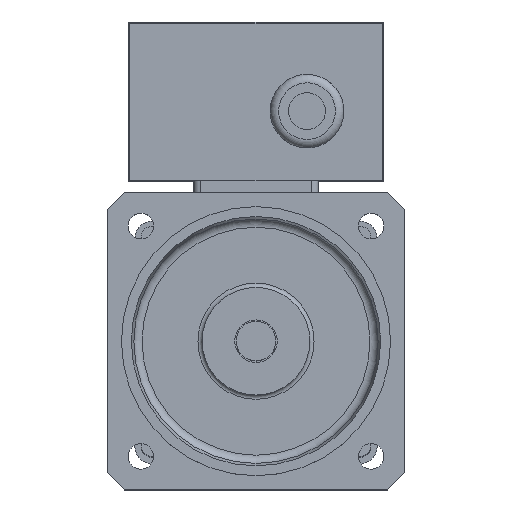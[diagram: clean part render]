
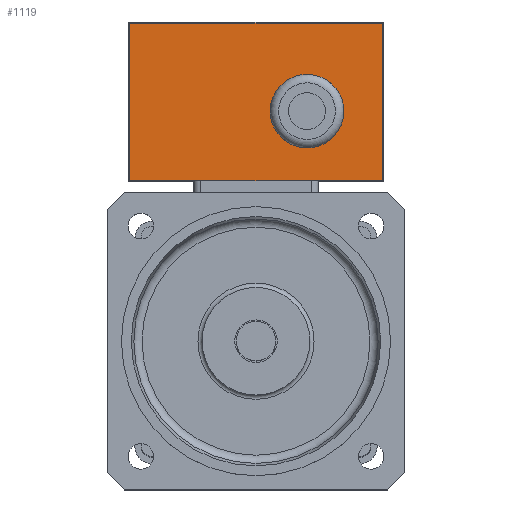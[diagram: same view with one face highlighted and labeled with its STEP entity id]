
A CAD part, top view. The second image highlights one B-rep face of the part: STEP entity #1119.
In plain terms, the highlighted planar face has unit normal (0, 0, 1) as drawn and (0, -1, 0) by its records, which use the part's own axes.
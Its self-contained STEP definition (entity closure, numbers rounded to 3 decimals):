
#300=FACE_BOUND('',#2568,.T.);
#569=PLANE('',#12106);
#1119=ADVANCED_FACE('',(#300,#1972),#569,.T.);
#1972=FACE_OUTER_BOUND('',#2569,.T.);
#2568=EDGE_LOOP('',(#6184));
#2569=EDGE_LOOP('',(#6185,#6186,#6187,#6188));
#3225=CIRCLE('',#12105,10.);
#6184=ORIENTED_EDGE('',*,*,#9019,.T.);
#6185=ORIENTED_EDGE('',*,*,#9020,.T.);
#6186=ORIENTED_EDGE('',*,*,#9021,.T.);
#6187=ORIENTED_EDGE('',*,*,#9022,.T.);
#6188=ORIENTED_EDGE('',*,*,#9023,.T.);
#7462=VERTEX_POINT('',#18839);
#7463=VERTEX_POINT('',#18841);
#7464=VERTEX_POINT('',#18842);
#7465=VERTEX_POINT('',#18844);
#7466=VERTEX_POINT('',#18846);
#9019=EDGE_CURVE('',#7462,#7462,#3225,.T.);
#9020=EDGE_CURVE('',#7463,#7464,#10012,.T.);
#9021=EDGE_CURVE('',#7464,#7465,#10013,.T.);
#9022=EDGE_CURVE('',#7465,#7466,#10014,.T.);
#9023=EDGE_CURVE('',#7466,#7463,#10015,.T.);
#10012=LINE('',#18840,#10950);
#10013=LINE('',#18843,#10951);
#10014=LINE('',#18845,#10952);
#10015=LINE('',#18847,#10953);
#10950=VECTOR('',#15199,1.);
#10951=VECTOR('',#15200,1.);
#10952=VECTOR('',#15201,1.);
#10953=VECTOR('',#15202,1.);
#12105=AXIS2_PLACEMENT_3D('',#18838,#15197,#15198);
#12106=AXIS2_PLACEMENT_3D('',#18848,#15203,#15204);
#15197=DIRECTION('',(0.,1.,0.));
#15198=DIRECTION('',(0.,0.,1.));
#15199=DIRECTION('',(-1.,0.,0.));
#15200=DIRECTION('',(0.,0.,-1.));
#15201=DIRECTION('',(1.,0.,0.));
#15202=DIRECTION('',(0.,0.,1.));
#15203=DIRECTION('',(0.,-1.,0.));
#15204=DIRECTION('',(0.,0.,-1.));
#18838=CARTESIAN_POINT('',(63.,0.,24.5));
#18839=CARTESIAN_POINT('',(63.,0.,34.5));
#18840=CARTESIAN_POINT('',(45.,0.,55.5));
#18841=CARTESIAN_POINT('',(89.5,0.,55.5));
#18842=CARTESIAN_POINT('',(0.5,0.,55.5));
#18843=CARTESIAN_POINT('',(0.5,0.,0.));
#18844=CARTESIAN_POINT('',(0.5,0.,0.));
#18845=CARTESIAN_POINT('',(45.,0.,0.));
#18846=CARTESIAN_POINT('',(89.5,0.,0.));
#18847=CARTESIAN_POINT('',(89.5,0.,0.));
#18848=CARTESIAN_POINT('',(45.,0.,0.));
